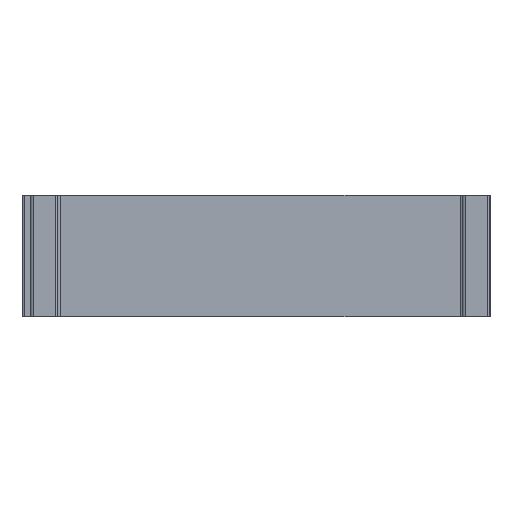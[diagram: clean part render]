
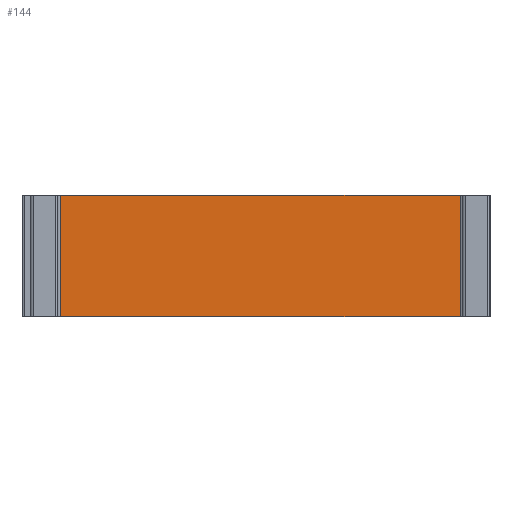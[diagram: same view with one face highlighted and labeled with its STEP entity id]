
A CAD part, left-side view. The second image highlights one B-rep face of the part: STEP entity #144.
In plain terms, the highlighted planar face has unit normal (-1, 0, 0).
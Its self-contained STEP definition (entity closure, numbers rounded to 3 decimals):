
#144=ADVANCED_FACE('',(#260),#2044,.T.);
#260=FACE_OUTER_BOUND('',#384,.T.);
#384=EDGE_LOOP('',(#807,#808,#809,#810));
#807=ORIENTED_EDGE('',*,*,#1305,.T.);
#808=ORIENTED_EDGE('',*,*,#1306,.T.);
#809=ORIENTED_EDGE('',*,*,#1307,.F.);
#810=ORIENTED_EDGE('',*,*,#1303,.F.);
#1303=EDGE_CURVE('',#1913,#1914,#1639,.T.);
#1305=EDGE_CURVE('',#1913,#1915,#1641,.T.);
#1306=EDGE_CURVE('',#1915,#1916,#1642,.T.);
#1307=EDGE_CURVE('',#1914,#1916,#1643,.T.);
#1639=(
BOUNDED_CURVE()
B_SPLINE_CURVE(1,(#3282,#3283),.UNSPECIFIED.,.F.,.F.)
B_SPLINE_CURVE_WITH_KNOTS((2,2),(0.,70.),.UNSPECIFIED.)
CURVE()
GEOMETRIC_REPRESENTATION_ITEM()
RATIONAL_B_SPLINE_CURVE((1.,1.))
REPRESENTATION_ITEM('')
);
#1641=(
BOUNDED_CURVE()
B_SPLINE_CURVE(2,(#3287,#3288,#3289),.UNSPECIFIED.,.F.,.F.)
B_SPLINE_CURVE_WITH_KNOTS((3,3),(-7388.391,-7153.391),
 .UNSPECIFIED.)
CURVE()
GEOMETRIC_REPRESENTATION_ITEM()
RATIONAL_B_SPLINE_CURVE((1.,1.,1.))
REPRESENTATION_ITEM('')
);
#1642=(
BOUNDED_CURVE()
B_SPLINE_CURVE(1,(#3290,#3291),.UNSPECIFIED.,.F.,.F.)
B_SPLINE_CURVE_WITH_KNOTS((2,2),(0.,70.),.UNSPECIFIED.)
CURVE()
GEOMETRIC_REPRESENTATION_ITEM()
RATIONAL_B_SPLINE_CURVE((1.,1.))
REPRESENTATION_ITEM('')
);
#1643=(
BOUNDED_CURVE()
B_SPLINE_CURVE(2,(#3292,#3293,#3294),.UNSPECIFIED.,.F.,.F.)
B_SPLINE_CURVE_WITH_KNOTS((3,3),(-7388.391,-7153.391),
 .UNSPECIFIED.)
CURVE()
GEOMETRIC_REPRESENTATION_ITEM()
RATIONAL_B_SPLINE_CURVE((1.,1.,1.))
REPRESENTATION_ITEM('')
);
#1913=VERTEX_POINT('',#3131);
#1914=VERTEX_POINT('',#3132);
#1915=VERTEX_POINT('',#3133);
#1916=VERTEX_POINT('',#3134);
#2044=PLANE('',#2180);
#2180=AXIS2_PLACEMENT_3D('',#2946,#2271,$);
#2271=DIRECTION('',(-1.,0.,0.));
#2946=CARTESIAN_POINT('',(22723.041,-8452.706,0.));
#3131=CARTESIAN_POINT('',(22723.041,-8452.706,0.));
#3132=CARTESIAN_POINT('',(22723.041,-8452.706,70.));
#3133=CARTESIAN_POINT('',(22723.041,-8683.354,0.));
#3134=CARTESIAN_POINT('',(22723.041,-8683.354,70.));
#3282=CARTESIAN_POINT('',(22723.041,-8452.706,0.));
#3283=CARTESIAN_POINT('',(22723.041,-8452.706,70.));
#3287=CARTESIAN_POINT('',(22723.041,-8452.706,0.));
#3288=CARTESIAN_POINT('',(22723.041,-8568.03,0.));
#3289=CARTESIAN_POINT('',(22723.041,-8683.354,0.));
#3290=CARTESIAN_POINT('',(22723.041,-8683.354,0.));
#3291=CARTESIAN_POINT('',(22723.041,-8683.354,70.));
#3292=CARTESIAN_POINT('',(22723.041,-8452.706,70.));
#3293=CARTESIAN_POINT('',(22723.041,-8568.03,70.));
#3294=CARTESIAN_POINT('',(22723.041,-8683.354,70.));
